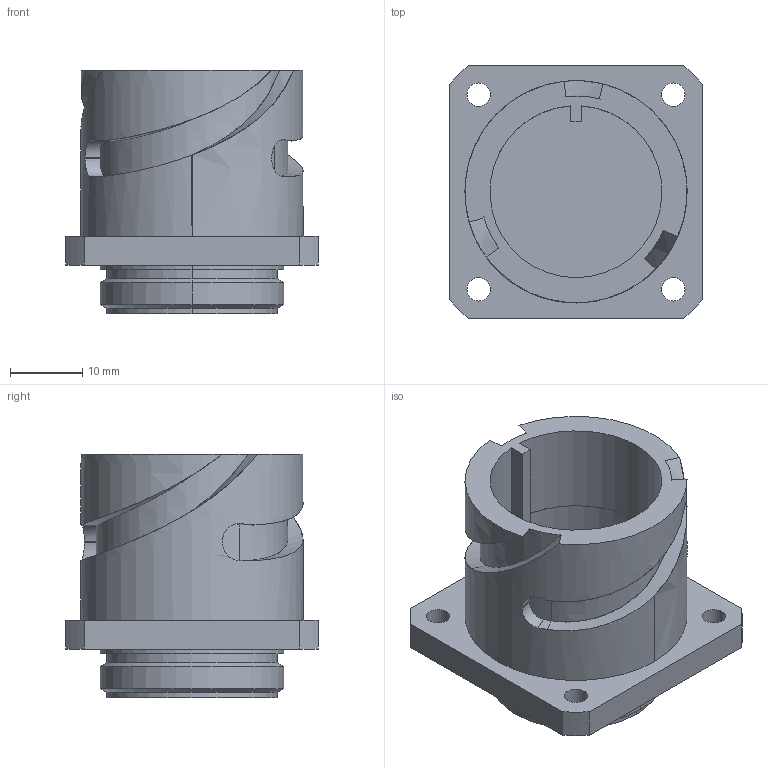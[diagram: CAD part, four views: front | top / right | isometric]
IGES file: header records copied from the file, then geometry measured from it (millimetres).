
Start section:  PTC IGES file: gt030_18_shell.igs
Global section: file name: gt030_18_shell.igs; native system: Creo Parametric by PTC Inc.; preprocessor: 2016260; author: t-nakamura; organization: Unknown; date: 20170622.203748; units: inch
Bounding box: 35.05 x 35.05 x 33.81 mm (x, y, z)
Surface area: 8139.1 mm2 (no closed solid volume)
Topology: 0 solids, 0 shells, 73 faces, 360 edges, 360 vertices
Faces by surface type: revolution 37, bspline 36
